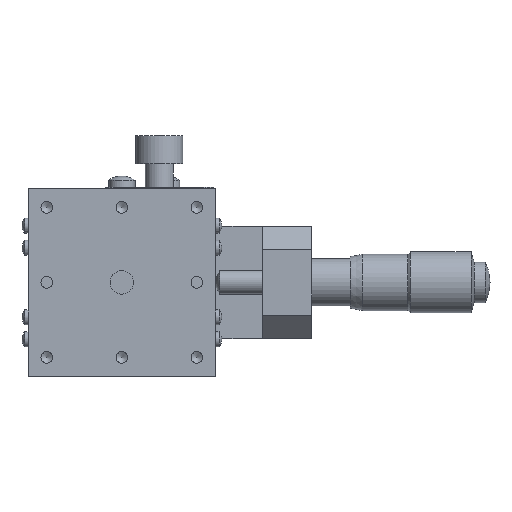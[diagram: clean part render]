
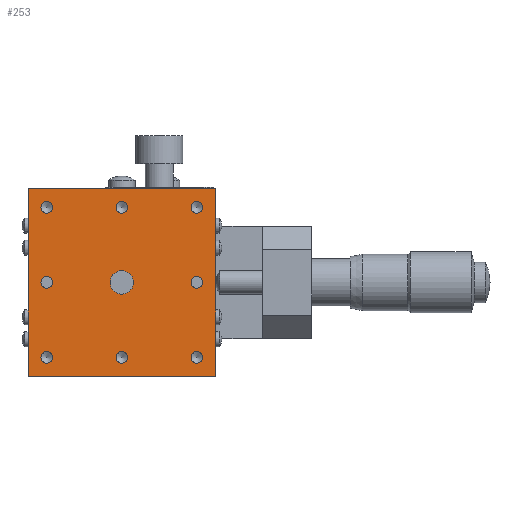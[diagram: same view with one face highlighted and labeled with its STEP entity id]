
A CAD part, top view. The second image highlights one B-rep face of the part: STEP entity #253.
In plain terms, the highlighted planar face has unit normal (0, 0, 1).
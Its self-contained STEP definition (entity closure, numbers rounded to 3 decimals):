
#253 = ADVANCED_FACE( '', ( #620, #621, #622, #623, #624, #625, #626, #627, #628, #629 ), #630, .T. );
#620 = FACE_BOUND( '', #1167, .T. );
#621 = FACE_BOUND( '', #1168, .T. );
#622 = FACE_BOUND( '', #1169, .T. );
#623 = FACE_BOUND( '', #1170, .T. );
#624 = FACE_BOUND( '', #1171, .T. );
#625 = FACE_BOUND( '', #1172, .T. );
#626 = FACE_BOUND( '', #1173, .T. );
#627 = FACE_BOUND( '', #1174, .T. );
#628 = FACE_OUTER_BOUND( '', #1175, .T. );
#629 = FACE_BOUND( '', #1176, .T. );
#630 = PLANE( '', #1177 );
#1167 = EDGE_LOOP( '', ( #1820 ) );
#1168 = EDGE_LOOP( '', ( #1821 ) );
#1169 = EDGE_LOOP( '', ( #1822 ) );
#1170 = EDGE_LOOP( '', ( #1823 ) );
#1171 = EDGE_LOOP( '', ( #1824 ) );
#1172 = EDGE_LOOP( '', ( #1825 ) );
#1173 = EDGE_LOOP( '', ( #1826 ) );
#1174 = EDGE_LOOP( '', ( #1827 ) );
#1175 = EDGE_LOOP( '', ( #1828, #1829, #1830, #1831 ) );
#1176 = EDGE_LOOP( '', ( #1832 ) );
#1177 = AXIS2_PLACEMENT_3D( '', #1833, #1834, #1835 );
#1820 = ORIENTED_EDGE( '', *, *, #2696, .T. );
#1821 = ORIENTED_EDGE( '', *, *, #2819, .T. );
#1822 = ORIENTED_EDGE( '', *, *, #2820, .T. );
#1823 = ORIENTED_EDGE( '', *, *, #2704, .T. );
#1824 = ORIENTED_EDGE( '', *, *, #2821, .T. );
#1825 = ORIENTED_EDGE( '', *, *, #2822, .T. );
#1826 = ORIENTED_EDGE( '', *, *, #2771, .T. );
#1827 = ORIENTED_EDGE( '', *, *, #2823, .T. );
#1828 = ORIENTED_EDGE( '', *, *, #2824, .F. );
#1829 = ORIENTED_EDGE( '', *, *, #2825, .F. );
#1830 = ORIENTED_EDGE( '', *, *, #2826, .F. );
#1831 = ORIENTED_EDGE( '', *, *, #2827, .F. );
#1832 = ORIENTED_EDGE( '', *, *, #2828, .F. );
#1833 = CARTESIAN_POINT( '', ( 0., 0., 20. ) );
#1834 = DIRECTION( '', ( 0., 0., 1. ) );
#1835 = DIRECTION( '', ( 0., 1., 0. ) );
#2696 = EDGE_CURVE( '', #3121, #3121, #3122, .T. );
#2704 = EDGE_CURVE( '', #3134, #3134, #3135, .T. );
#2771 = EDGE_CURVE( '', #3252, #3252, #3253, .T. );
#2819 = EDGE_CURVE( '', #3328, #3328, #3329, .T. );
#2820 = EDGE_CURVE( '', #3330, #3330, #3331, .T. );
#2821 = EDGE_CURVE( '', #3332, #3332, #3333, .T. );
#2822 = EDGE_CURVE( '', #3334, #3334, #3335, .T. );
#2823 = EDGE_CURVE( '', #3336, #3336, #3337, .T. );
#2824 = EDGE_CURVE( '', #3338, #3339, #3340, .T. );
#2825 = EDGE_CURVE( '', #3341, #3338, #3342, .T. );
#2826 = EDGE_CURVE( '', #3343, #3341, #3344, .T. );
#2827 = EDGE_CURVE( '', #3339, #3343, #3345, .T. );
#2828 = EDGE_CURVE( '', #3346, #3346, #3347, .T. );
#3121 = VERTEX_POINT( '', #3740 );
#3122 = CIRCLE( '', #3741, 1.25 );
#3134 = VERTEX_POINT( '', #3753 );
#3135 = CIRCLE( '', #3754, 1.25 );
#3252 = VERTEX_POINT( '', #3912 );
#3253 = CIRCLE( '', #3913, 1.25 );
#3328 = VERTEX_POINT( '', #4004 );
#3329 = CIRCLE( '', #4005, 1.25 );
#3330 = VERTEX_POINT( '', #4006 );
#3331 = CIRCLE( '', #4007, 1.25 );
#3332 = VERTEX_POINT( '', #4008 );
#3333 = CIRCLE( '', #4009, 1.25 );
#3334 = VERTEX_POINT( '', #4010 );
#3335 = CIRCLE( '', #4011, 1.25 );
#3336 = VERTEX_POINT( '', #4012 );
#3337 = CIRCLE( '', #4013, 1.25 );
#3338 = VERTEX_POINT( '', #4014 );
#3339 = VERTEX_POINT( '', #4015 );
#3340 = LINE( '', #4016, #4017 );
#3341 = VERTEX_POINT( '', #4018 );
#3342 = LINE( '', #4019, #4020 );
#3343 = VERTEX_POINT( '', #4021 );
#3344 = LINE( '', #4022, #4023 );
#3345 = LINE( '', #4024, #4025 );
#3346 = VERTEX_POINT( '', #4026 );
#3347 = CIRCLE( '', #4027, 2.5 );
#3740 = CARTESIAN_POINT( '', ( -16., -1.25, 20. ) );
#3741 = AXIS2_PLACEMENT_3D( '', #4520, #4521, #4522 );
#3753 = CARTESIAN_POINT( '', ( 16., 14.75, 20. ) );
#3754 = AXIS2_PLACEMENT_3D( '', #4535, #4536, #4537 );
#3912 = CARTESIAN_POINT( '', ( 0., -17.25, 20. ) );
#3913 = AXIS2_PLACEMENT_3D( '', #4615, #4616, #4617 );
#4004 = CARTESIAN_POINT( '', ( -16., 14.75, 20. ) );
#4005 = AXIS2_PLACEMENT_3D( '', #4679, #4680, #4681 );
#4006 = CARTESIAN_POINT( '', ( 0., 14.75, 20. ) );
#4007 = AXIS2_PLACEMENT_3D( '', #4682, #4683, #4684 );
#4008 = CARTESIAN_POINT( '', ( 16., -1.25, 20. ) );
#4009 = AXIS2_PLACEMENT_3D( '', #4685, #4686, #4687 );
#4010 = CARTESIAN_POINT( '', ( 16., -17.25, 20. ) );
#4011 = AXIS2_PLACEMENT_3D( '', #4688, #4689, #4690 );
#4012 = CARTESIAN_POINT( '', ( -16., -17.25, 20. ) );
#4013 = AXIS2_PLACEMENT_3D( '', #4691, #4692, #4693 );
#4014 = CARTESIAN_POINT( '', ( -20., -20., 20. ) );
#4015 = CARTESIAN_POINT( '', ( -20., 20., 20. ) );
#4016 = CARTESIAN_POINT( '', ( -20., 0., 20. ) );
#4017 = VECTOR( '', #4694, 1000. );
#4018 = CARTESIAN_POINT( '', ( 20., -20., 20. ) );
#4019 = CARTESIAN_POINT( '', ( 0., -20., 20. ) );
#4020 = VECTOR( '', #4695, 1000. );
#4021 = CARTESIAN_POINT( '', ( 20., 20., 20. ) );
#4022 = CARTESIAN_POINT( '', ( 20., 0., 20. ) );
#4023 = VECTOR( '', #4696, 1000. );
#4024 = CARTESIAN_POINT( '', ( 0., 20., 20. ) );
#4025 = VECTOR( '', #4697, 1000. );
#4026 = CARTESIAN_POINT( '', ( 0., 2.5, 20. ) );
#4027 = AXIS2_PLACEMENT_3D( '', #4698, #4699, #4700 );
#4520 = CARTESIAN_POINT( '', ( -16., 0., 20. ) );
#4521 = DIRECTION( '', ( 0., 0., -1. ) );
#4522 = DIRECTION( '', ( 0., -1., 0. ) );
#4535 = CARTESIAN_POINT( '', ( 16., 16., 20. ) );
#4536 = DIRECTION( '', ( 0., 0., -1. ) );
#4537 = DIRECTION( '', ( 0., -1., 0. ) );
#4615 = CARTESIAN_POINT( '', ( 0., -16., 20. ) );
#4616 = DIRECTION( '', ( 0., 0., -1. ) );
#4617 = DIRECTION( '', ( 0., -1., 0. ) );
#4679 = CARTESIAN_POINT( '', ( -16., 16., 20. ) );
#4680 = DIRECTION( '', ( 0., 0., -1. ) );
#4681 = DIRECTION( '', ( 0., -1., 0. ) );
#4682 = CARTESIAN_POINT( '', ( 0., 16., 20. ) );
#4683 = DIRECTION( '', ( 0., 0., -1. ) );
#4684 = DIRECTION( '', ( 0., -1., 0. ) );
#4685 = CARTESIAN_POINT( '', ( 16., 0., 20. ) );
#4686 = DIRECTION( '', ( 0., 0., -1. ) );
#4687 = DIRECTION( '', ( 0., -1., 0. ) );
#4688 = CARTESIAN_POINT( '', ( 16., -16., 20. ) );
#4689 = DIRECTION( '', ( 0., 0., -1. ) );
#4690 = DIRECTION( '', ( 0., -1., 0. ) );
#4691 = CARTESIAN_POINT( '', ( -16., -16., 20. ) );
#4692 = DIRECTION( '', ( 0., 0., -1. ) );
#4693 = DIRECTION( '', ( 0., -1., 0. ) );
#4694 = DIRECTION( '', ( 0., 1., 0. ) );
#4695 = DIRECTION( '', ( -1., 0., 0. ) );
#4696 = DIRECTION( '', ( 0., -1., 0. ) );
#4697 = DIRECTION( '', ( 1., 0., 0. ) );
#4698 = CARTESIAN_POINT( '', ( 0., 0., 20. ) );
#4699 = DIRECTION( '', ( 0., 0., 1. ) );
#4700 = DIRECTION( '', ( 0., 1., 0. ) );
